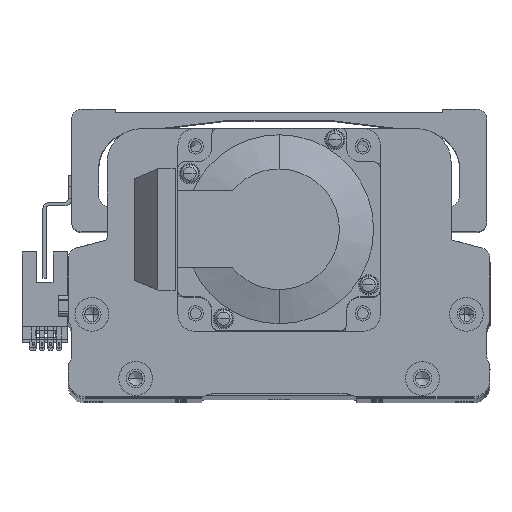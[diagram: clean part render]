
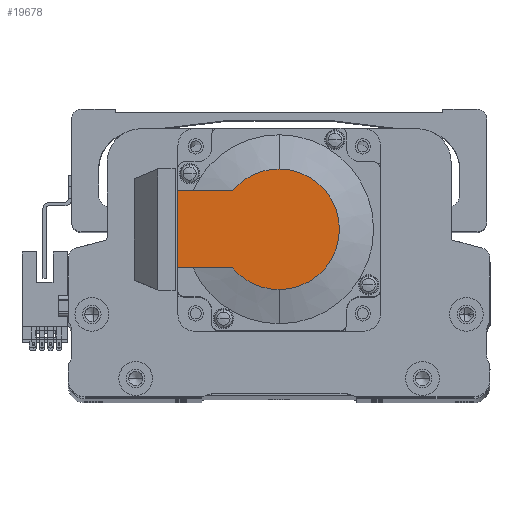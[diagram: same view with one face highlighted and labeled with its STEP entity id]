
A CAD part, top view. The second image highlights one B-rep face of the part: STEP entity #19678.
In plain terms, the highlighted planar face has unit normal (0, 0, 1) as drawn and (-1, 0, 0) by its records, which use the part's own axes.
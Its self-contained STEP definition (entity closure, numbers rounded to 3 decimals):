
#615 = CARTESIAN_POINT ( 'NONE',  ( -118.5, -8.941, 0. ) ) ;
#837 = AXIS2_PLACEMENT_3D ( 'NONE', #1355, #29829, #5431 ) ;
#1355 = CARTESIAN_POINT ( 'NONE',  ( -118.5, 0., 0. ) ) ;
#2388 = CARTESIAN_POINT ( 'NONE',  ( -118.5, 0., 17.881 ) ) ;
#3074 = DIRECTION ( 'NONE',  ( 0., 0., -1. ) ) ;
#3390 = LINE ( 'NONE', #24544, #34625 ) ;
#3586 = ORIENTED_EDGE ( 'NONE', *, *, #40470, .T. ) ;
#3714 = DIRECTION ( 'NONE',  ( 0., -1., 0. ) ) ;
#4493 = CIRCLE ( 'NONE', #42083, 17.881 ) ;
#4675 = DIRECTION ( 'NONE',  ( 0., 0., 1. ) ) ;
#5431 = DIRECTION ( 'NONE',  ( 0., 0., -1. ) ) ;
#6789 = LINE ( 'NONE', #19915, #48874 ) ;
#8060 = VECTOR ( 'NONE', #44943, 1000. ) ;
#9274 = EDGE_LOOP ( 'NONE', ( #3586, #11854, #22832, #33912, #45414, #34916 ) ) ;
#9356 = LINE ( 'NONE', #49057, #8060 ) ;
#10342 = VERTEX_POINT ( 'NONE', #13734 ) ;
#10928 = CIRCLE ( 'NONE', #51718, 17.881 ) ;
#11854 = ORIENTED_EDGE ( 'NONE', *, *, #47697, .T. ) ;
#12371 = CARTESIAN_POINT ( 'NONE',  ( -118.5, 30., 11.45 ) ) ;
#12785 = CARTESIAN_POINT ( 'NONE',  ( -118.5, 0., 0. ) ) ;
#13006 = EDGE_CURVE ( 'NONE', #21065, #10342, #6789, .T. ) ;
#13720 = VERTEX_POINT ( 'NONE', #42339 ) ;
#13734 = CARTESIAN_POINT ( 'NONE',  ( -118.5, 13.735, 11.45 ) ) ;
#15889 = CIRCLE ( 'NONE', #837, 17.881 ) ;
#16883 = DIRECTION ( 'NONE',  ( 0., 0., -1. ) ) ;
#18258 = EDGE_CURVE ( 'NONE', #43622, #21065, #3390, .T. ) ;
#19678 = ADVANCED_FACE ( 'NONE', ( #43892 ), #41033, .T. ) ;
#19888 = CARTESIAN_POINT ( 'NONE',  ( -118.5, 30., -11.45 ) ) ;
#19915 = CARTESIAN_POINT ( 'NONE',  ( -118.5, 0., 11.45 ) ) ;
#21065 = VERTEX_POINT ( 'NONE', #12371 ) ;
#21401 = VERTEX_POINT ( 'NONE', #2388 ) ;
#22228 = AXIS2_PLACEMENT_3D ( 'NONE', #615, #29110, #4675 ) ;
#22832 = ORIENTED_EDGE ( 'NONE', *, *, #23726, .T. ) ;
#23726 = EDGE_CURVE ( 'NONE', #28414, #21401, #10928, .T. ) ;
#24544 = CARTESIAN_POINT ( 'NONE',  ( -118.5, 30., 25. ) ) ;
#27487 = DIRECTION ( 'NONE',  ( -1., 0., 0. ) ) ;
#28414 = VERTEX_POINT ( 'NONE', #37638 ) ;
#28813 = DIRECTION ( 'NONE',  ( 0., 0., 1. ) ) ;
#29110 = DIRECTION ( 'NONE',  ( -1., 0., 0. ) ) ;
#29829 = DIRECTION ( 'NONE',  ( -1., 0., 0. ) ) ;
#33912 = ORIENTED_EDGE ( 'NONE', *, *, #47258, .T. ) ;
#34625 = VECTOR ( 'NONE', #28813, 1000. ) ;
#34916 = ORIENTED_EDGE ( 'NONE', *, *, #18258, .F. ) ;
#37638 = CARTESIAN_POINT ( 'NONE',  ( -118.5, 0., -17.881 ) ) ;
#40470 = EDGE_CURVE ( 'NONE', #43622, #13720, #9356, .T. ) ;
#41033 = PLANE ( 'NONE',  #22228 ) ;
#41317 = DIRECTION ( 'NONE',  ( -1., 0., 0. ) ) ;
#42083 = AXIS2_PLACEMENT_3D ( 'NONE', #12785, #41317, #16883 ) ;
#42339 = CARTESIAN_POINT ( 'NONE',  ( -118.5, 13.735, -11.45 ) ) ;
#43622 = VERTEX_POINT ( 'NONE', #19888 ) ;
#43892 = FACE_OUTER_BOUND ( 'NONE', #9274, .T. ) ;
#44943 = DIRECTION ( 'NONE',  ( 0., -1., 0. ) ) ;
#45414 = ORIENTED_EDGE ( 'NONE', *, *, #13006, .F. ) ;
#47258 = EDGE_CURVE ( 'NONE', #21401, #10342, #4493, .T. ) ;
#47697 = EDGE_CURVE ( 'NONE', #13720, #28414, #15889, .T. ) ;
#48874 = VECTOR ( 'NONE', #3714, 1000. ) ;
#49057 = CARTESIAN_POINT ( 'NONE',  ( -118.5, -8.941, -11.45 ) ) ;
#51718 = AXIS2_PLACEMENT_3D ( 'NONE', #51831, #27487, #3074 ) ;
#51831 = CARTESIAN_POINT ( 'NONE',  ( -118.5, 0., 0. ) ) ;
